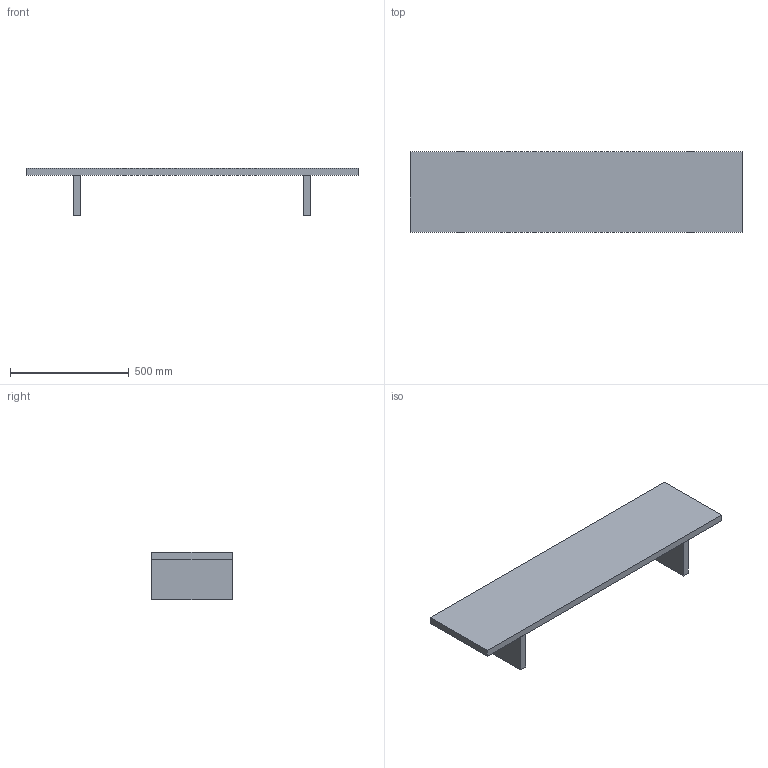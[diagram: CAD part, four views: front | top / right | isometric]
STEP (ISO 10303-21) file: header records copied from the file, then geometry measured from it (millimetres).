
FILE_DESCRIPTION(/* description */ (''),/* implementation_level */ '2;1');
FILE_NAME(/* name */ 'Kona Display table_3D',/* time_stamp */ '2021-09-02T13:00:26+02:00',/* author */ (''),/* organization */ (''),/* preprocessor_version */ 'ST-DEVELOPER v16.5',/* originating_system */ '',/* authorisation */ '');
FILE_SCHEMA (('CONFIG_CONTROL_DESIGN'));
Length unit declared in the file: millimetre
Products named in the file (1): Document
Bounding box: 1400 x 340 x 200 mm (x, y, z)
Volume: 17748000 mm3; surface area: 1348800 mm2
Topology: 3 solids, 3 shells, 18 faces, 36 edges, 24 vertices
Faces by surface type: plane 18
Entity records: 488 total; most frequent: CARTESIAN_POINT 116, ORIENTED_EDGE 72, EDGE_CURVE 36, B_SPLINE_CURVE_WITH_KNOTS 36, VERTEX_POINT 24, DIRECTION 22, AXIS2_PLACEMENT_3D 20, ADVANCED_FACE 18
